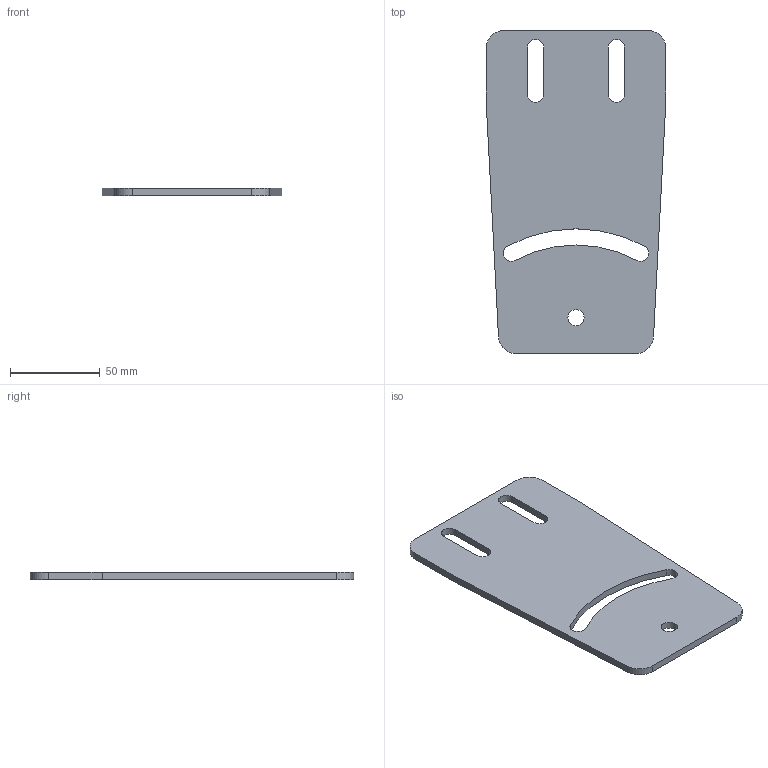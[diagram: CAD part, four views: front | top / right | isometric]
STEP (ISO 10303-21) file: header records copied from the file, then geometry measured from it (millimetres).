
FILE_DESCRIPTION (( 'STEP AP203' ), '1' );
FILE_NAME ('084.709.003.STEP', '2013-01-29T13:38:42', ( 'Alusic' ), ( 'Alusic' ), 'SwSTEP 2.0', 'SolidWorks 2011', '' );
FILE_SCHEMA (( 'CONFIG_CONTROL_DESIGN' ));
Length unit declared in the file: millimetre
Products named in the file (1): 084.709.003
Bounding box: 100 x 180 x 4 mm (x, y, z)
Volume: 61983.2 mm3; surface area: 34576.9 mm2
Topology: 1 solids, 1 shells, 27 faces, 75 edges, 50 vertices
Faces by surface type: cylinder 15, plane 12
Entity records: 972 total; most frequent: DIRECTION 161, CARTESIAN_POINT 153, ORIENTED_EDGE 150, EDGE_CURVE 75, AXIS2_PLACEMENT_3D 58, VERTEX_POINT 50, VECTOR 45, LINE 45
